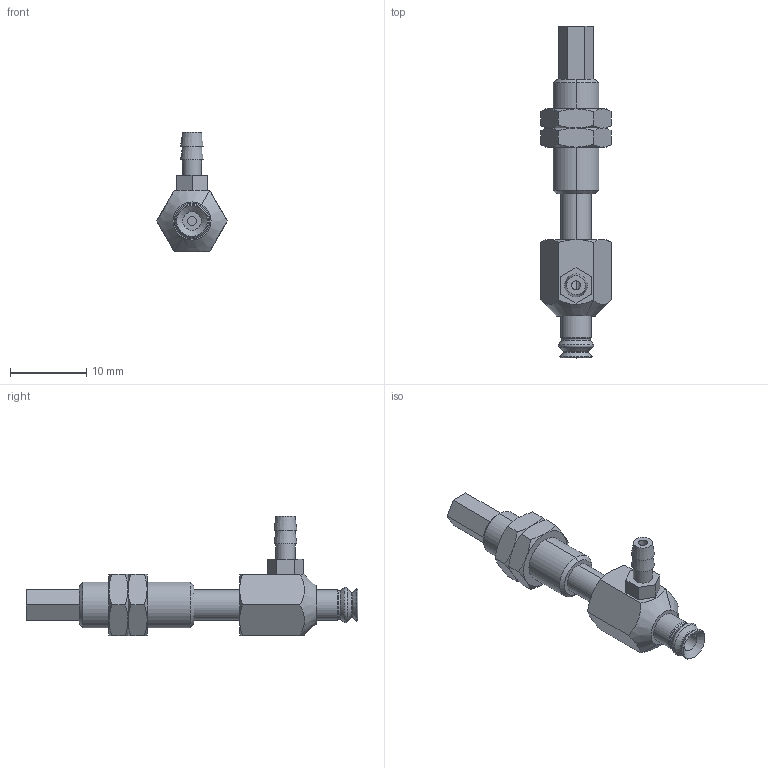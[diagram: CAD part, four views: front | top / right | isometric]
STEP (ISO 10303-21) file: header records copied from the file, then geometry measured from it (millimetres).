
FILE_DESCRIPTION(('STEP AP203'),'1');
FILE_NAME('-T.stp','2025-04-23T06:57:23',(' '),(' '),'Spatial InterOp 3D',' ',' ');
FILE_SCHEMA(('CONFIG_CONTROL_DESIGN'));
Length unit declared in the file: millimetre
Products named in the file (7): BNABPJYS-4-6-※-T; _CONNECTOR_1_5A_6; _Nut_1_5A_6_s; _NAPFTS_1_5A_6_FBODY; _NAPFTS_1_5A_6_MBODY; BPJG-4-※; T (2)
Assembly tree (7 placements, depth 2):
  BNABPJYS-4-6-※-T
    _CONNECTOR_1_5A_6
    _Nut_1_5A_6_s  x2
    _NAPFTS_1_5A_6_FBODY
    _NAPFTS_1_5A_6_MBODY
    BPJG-4-※
    T (2)
Bounding box: 9.24 x 43.5 x 15.6 mm (x, y, z)
Volume: 1335.5 mm3; surface area: 2099.6 mm2
Topology: 7 solids, 7 shells, 170 faces, 371 edges, 223 vertices
Faces by surface type: plane 67, cone 64, cylinder 29, torus 10
Full cylindrical faces by diameter (mm): 1.2 x1, 2 x1, 2.4 x1, 2.5 x1, 3 x2, 4 x1
Entity records: 4203 total; most frequent: CARTESIAN_POINT 825, DIRECTION 657, ORIENTED_EDGE 566, EDGE_CURVE 283, AXIS2_PLACEMENT_3D 272, EDGE_LOOP 189, VERTEX_POINT 184, FACE_OUTER_BOUND 159
